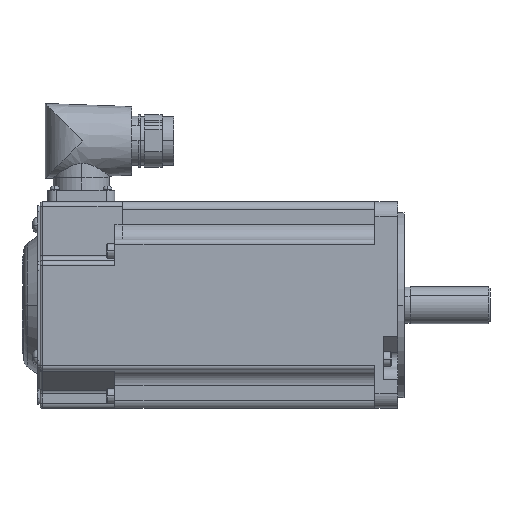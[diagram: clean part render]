
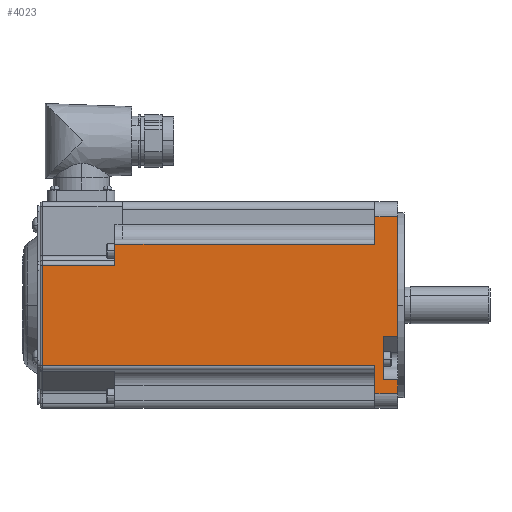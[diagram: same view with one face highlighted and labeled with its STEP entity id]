
A CAD part, top view. The second image highlights one B-rep face of the part: STEP entity #4023.
In plain terms, the highlighted planar face has unit normal (0, 0, 1) as drawn and (0, 0, -1) by its records, which use the part's own axes.
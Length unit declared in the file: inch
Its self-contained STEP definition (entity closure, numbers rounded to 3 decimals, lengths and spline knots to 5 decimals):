
#136 = ORIENTED_EDGE ( 'NONE', *, *, #25773, .T. ) ;
#357 = CARTESIAN_POINT ( 'NONE',  ( -4.7, 1.27352, -1.76 ) ) ;
#376 = CARTESIAN_POINT ( 'NONE',  ( -6.06, 1.04, -1.76 ) ) ;
#757 = DIRECTION ( 'NONE',  ( 0., 1., 0. ) ) ;
#1079 = VECTOR ( 'NONE', #23471, 39.37008 ) ;
#1417 = VERTEX_POINT ( 'NONE', #24460 ) ;
#1731 = CARTESIAN_POINT ( 'NONE',  ( -4.7, 1.51, -1.76 ) ) ;
#1830 = LINE ( 'NONE', #12089, #17816 ) ;
#1897 = CARTESIAN_POINT ( 'NONE',  ( -0.39, -1.51, -1.76 ) ) ;
#1985 = LINE ( 'NONE', #11132, #12396 ) ;
#2120 = ORIENTED_EDGE ( 'NONE', *, *, #5566, .F. ) ;
#2167 = ORIENTED_EDGE ( 'NONE', *, *, #2526, .T. ) ;
#2470 = EDGE_LOOP ( 'NONE', ( #17824, #11427, #7254, #4890, #2120, #6575, #23585, #11053, #17682, #136, #25117, #21317, #24023, #2167 ) ) ;
#2526 = EDGE_CURVE ( 'NONE', #19419, #2958, #3705, .T. ) ;
#2604 = VECTOR ( 'NONE', #24508, 39.37008 ) ;
#2958 = VERTEX_POINT ( 'NONE', #21424 ) ;
#3013 = VERTEX_POINT ( 'NONE', #6900 ) ;
#3156 = EDGE_CURVE ( 'NONE', #23940, #4054, #12787, .T. ) ;
#3370 = CARTESIAN_POINT ( 'NONE',  ( -4.7, 1.04, -1.76 ) ) ;
#3705 = LINE ( 'NONE', #19210, #24504 ) ;
#3831 = DIRECTION ( 'NONE',  ( 1., 0., 0. ) ) ;
#4023 = ADVANCED_FACE ( 'NONE', ( #11801 ), #19185, .F. ) ;
#4054 = VERTEX_POINT ( 'NONE', #4702 ) ;
#4481 = LINE ( 'NONE', #3370, #21709 ) ;
#4520 = CARTESIAN_POINT ( 'NONE',  ( -0.39, -1.76, -1.76 ) ) ;
#4628 = DIRECTION ( 'NONE',  ( -1., 0., 0. ) ) ;
#4636 = DIRECTION ( 'NONE',  ( 1., 0., 0. ) ) ;
#4702 = CARTESIAN_POINT ( 'NONE',  ( 0., 1.51, -1.76 ) ) ;
#4890 = ORIENTED_EDGE ( 'NONE', *, *, #21200, .T. ) ;
#5086 = VECTOR ( 'NONE', #4628, 39.37008 ) ;
#5566 = EDGE_CURVE ( 'NONE', #16667, #21045, #18567, .T. ) ;
#5569 = DIRECTION ( 'NONE',  ( 0., 1., 0. ) ) ;
#5685 = EDGE_CURVE ( 'NONE', #26973, #2958, #21463, .T. ) ;
#5899 = VECTOR ( 'NONE', #20894, 39.37008 ) ;
#6130 = LINE ( 'NONE', #4520, #12951 ) ;
#6575 = ORIENTED_EDGE ( 'NONE', *, *, #13099, .T. ) ;
#6630 = DIRECTION ( 'NONE',  ( 0., 1., 0. ) ) ;
#6900 = CARTESIAN_POINT ( 'NONE',  ( -0.39, 1.04, -1.76 ) ) ;
#7188 = DIRECTION ( 'NONE',  ( -1., 0., 0. ) ) ;
#7254 = ORIENTED_EDGE ( 'NONE', *, *, #8475, .T. ) ;
#7651 = CARTESIAN_POINT ( 'NONE',  ( -0.39, -1.76, -1.76 ) ) ;
#7922 = VECTOR ( 'NONE', #3831, 39.37008 ) ;
#8322 = CARTESIAN_POINT ( 'NONE',  ( -0.25, 0.54292, -1.76 ) ) ;
#8462 = CARTESIAN_POINT ( 'NONE',  ( -6.06, 1.04, -1.76 ) ) ;
#8475 = EDGE_CURVE ( 'NONE', #18371, #22141, #6130, .T. ) ;
#8814 = DIRECTION ( 'NONE',  ( 1., 0., 0. ) ) ;
#9533 = LINE ( 'NONE', #17560, #25432 ) ;
#9778 = VERTEX_POINT ( 'NONE', #376 ) ;
#9843 = CARTESIAN_POINT ( 'NONE',  ( -4.825, -1.04, -1.76 ) ) ;
#10063 = EDGE_CURVE ( 'NONE', #26973, #18371, #1830, .T. ) ;
#10335 = EDGE_CURVE ( 'NONE', #23940, #12755, #16145, .T. ) ;
#11043 = LINE ( 'NONE', #8462, #15910 ) ;
#11053 = ORIENTED_EDGE ( 'NONE', *, *, #15646, .T. ) ;
#11132 = CARTESIAN_POINT ( 'NONE',  ( -0.25, 0.54292, -1.76 ) ) ;
#11427 = ORIENTED_EDGE ( 'NONE', *, *, #10063, .T. ) ;
#11470 = LINE ( 'NONE', #1731, #7922 ) ;
#11801 = FACE_OUTER_BOUND ( 'NONE', #2470, .T. ) ;
#12089 = CARTESIAN_POINT ( 'NONE',  ( -4.7, -1.51, -1.76 ) ) ;
#12128 = CARTESIAN_POINT ( 'NONE',  ( -0.39, -1.04, -1.76 ) ) ;
#12396 = VECTOR ( 'NONE', #757, 39.37008 ) ;
#12755 = VERTEX_POINT ( 'NONE', #14226 ) ;
#12787 = LINE ( 'NONE', #21400, #1079 ) ;
#12951 = VECTOR ( 'NONE', #6630, 39.37008 ) ;
#13099 = EDGE_CURVE ( 'NONE', #16667, #17169, #9533, .T. ) ;
#14226 = CARTESIAN_POINT ( 'NONE',  ( -0.25, 1.27352, -1.76 ) ) ;
#14507 = CARTESIAN_POINT ( 'NONE',  ( 0., -1.51, -1.76 ) ) ;
#14655 = DIRECTION ( 'NONE',  ( 0., 1., 0. ) ) ;
#14815 = CARTESIAN_POINT ( 'NONE',  ( -4.7, 1.12, -1.76 ) ) ;
#15573 = DIRECTION ( 'NONE',  ( 1., 0., 0. ) ) ;
#15646 = EDGE_CURVE ( 'NONE', #9778, #3013, #4481, .T. ) ;
#15910 = VECTOR ( 'NONE', #14655, 39.37008 ) ;
#16145 = LINE ( 'NONE', #357, #5086 ) ;
#16667 = VERTEX_POINT ( 'NONE', #17797 ) ;
#16909 = LINE ( 'NONE', #7651, #22408 ) ;
#17169 = VERTEX_POINT ( 'NONE', #26181 ) ;
#17560 = CARTESIAN_POINT ( 'NONE',  ( -4.7, -0.68, -1.76 ) ) ;
#17682 = ORIENTED_EDGE ( 'NONE', *, *, #22770, .T. ) ;
#17797 = CARTESIAN_POINT ( 'NONE',  ( -4.825, -0.68, -1.76 ) ) ;
#17816 = VECTOR ( 'NONE', #26630, 39.37008 ) ;
#17824 = ORIENTED_EDGE ( 'NONE', *, *, #5685, .F. ) ;
#18371 = VERTEX_POINT ( 'NONE', #1897 ) ;
#18450 = CARTESIAN_POINT ( 'NONE',  ( -4.825, -1.76, -1.76 ) ) ;
#18567 = LINE ( 'NONE', #18450, #2604 ) ;
#18811 = DIRECTION ( 'NONE',  ( 0., 1., 0. ) ) ;
#18837 = CARTESIAN_POINT ( 'NONE',  ( -4.7, -1.04, -1.76 ) ) ;
#19185 = PLANE ( 'NONE',  #20798 ) ;
#19210 = CARTESIAN_POINT ( 'NONE',  ( -0.25, 0.54292, -1.76 ) ) ;
#19419 = VERTEX_POINT ( 'NONE', #8322 ) ;
#20798 = AXIS2_PLACEMENT_3D ( 'NONE', #14815, #21250, #8814 ) ;
#20877 = EDGE_CURVE ( 'NONE', #19419, #12755, #1985, .T. ) ;
#20894 = DIRECTION ( 'NONE',  ( -1., 0., 0. ) ) ;
#21045 = VERTEX_POINT ( 'NONE', #9843 ) ;
#21200 = EDGE_CURVE ( 'NONE', #22141, #21045, #22461, .T. ) ;
#21250 = DIRECTION ( 'NONE',  ( 0., 0., 1. ) ) ;
#21317 = ORIENTED_EDGE ( 'NONE', *, *, #10335, .T. ) ;
#21400 = CARTESIAN_POINT ( 'NONE',  ( 0., -1.76, -1.76 ) ) ;
#21424 = CARTESIAN_POINT ( 'NONE',  ( 0., 0.54292, -1.76 ) ) ;
#21463 = LINE ( 'NONE', #22951, #26342 ) ;
#21709 = VECTOR ( 'NONE', #15573, 39.37008 ) ;
#22141 = VERTEX_POINT ( 'NONE', #12128 ) ;
#22408 = VECTOR ( 'NONE', #5569, 39.37008 ) ;
#22461 = LINE ( 'NONE', #18837, #5899 ) ;
#22770 = EDGE_CURVE ( 'NONE', #3013, #1417, #16909, .T. ) ;
#22951 = CARTESIAN_POINT ( 'NONE',  ( 0., -1.76, -1.76 ) ) ;
#23029 = EDGE_CURVE ( 'NONE', #17169, #9778, #11043, .T. ) ;
#23471 = DIRECTION ( 'NONE',  ( 0., 1., 0. ) ) ;
#23585 = ORIENTED_EDGE ( 'NONE', *, *, #23029, .T. ) ;
#23940 = VERTEX_POINT ( 'NONE', #24021 ) ;
#24021 = CARTESIAN_POINT ( 'NONE',  ( 0., 1.27352, -1.76 ) ) ;
#24023 = ORIENTED_EDGE ( 'NONE', *, *, #20877, .F. ) ;
#24460 = CARTESIAN_POINT ( 'NONE',  ( -0.39, 1.51, -1.76 ) ) ;
#24504 = VECTOR ( 'NONE', #4636, 39.37008 ) ;
#24508 = DIRECTION ( 'NONE',  ( 0., -1., 0. ) ) ;
#25117 = ORIENTED_EDGE ( 'NONE', *, *, #3156, .F. ) ;
#25432 = VECTOR ( 'NONE', #7188, 39.37008 ) ;
#25773 = EDGE_CURVE ( 'NONE', #1417, #4054, #11470, .T. ) ;
#26181 = CARTESIAN_POINT ( 'NONE',  ( -6.06, -0.68, -1.76 ) ) ;
#26342 = VECTOR ( 'NONE', #18811, 39.37008 ) ;
#26630 = DIRECTION ( 'NONE',  ( -1., 0., 0. ) ) ;
#26973 = VERTEX_POINT ( 'NONE', #14507 ) ;
